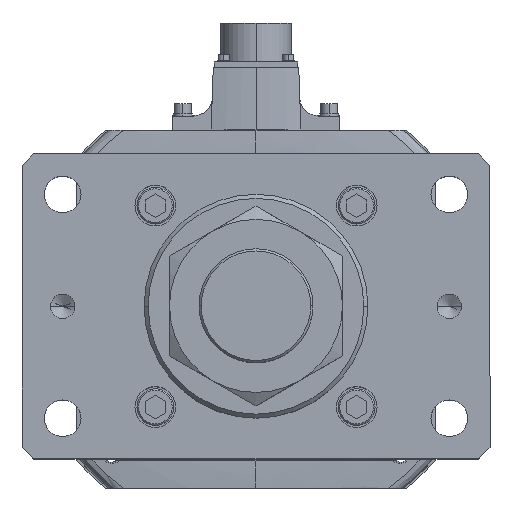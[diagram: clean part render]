
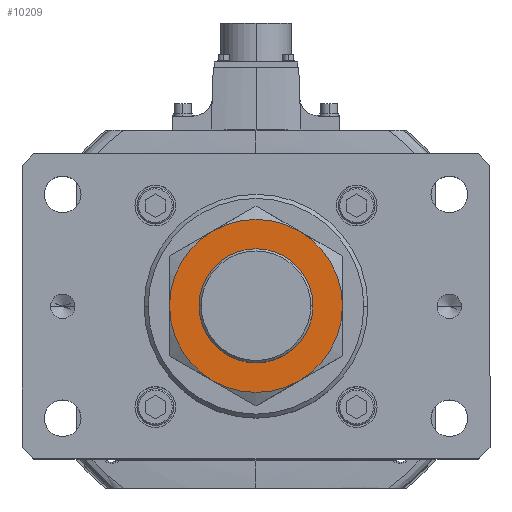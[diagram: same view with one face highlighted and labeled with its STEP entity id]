
A CAD part, top view. The second image highlights one B-rep face of the part: STEP entity #10209.
In plain terms, the highlighted planar face has unit normal (0, 0, 1).
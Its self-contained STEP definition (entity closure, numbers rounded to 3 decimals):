
#606 = FACE_OUTER_BOUND ( 'NONE', #24059, .T. ) ;
#1800 = EDGE_CURVE ( 'NONE', #48882, #20124, #24122, .T. ) ;
#2390 = DIRECTION ( 'NONE',  ( 0., 0., -1. ) ) ;
#2839 = DIRECTION ( 'NONE',  ( 1., 0., 0. ) ) ;
#3513 = DIRECTION ( 'NONE',  ( 0., 0., -1. ) ) ;
#3534 = CARTESIAN_POINT ( 'NONE',  ( -21.25, 36.806, 34. ) ) ;
#5337 = CIRCLE ( 'NONE', #26723, 42.5 ) ;
#5570 = CIRCLE ( 'NONE', #44267, 28. ) ;
#5630 = EDGE_CURVE ( 'NONE', #20573, #53058, #8432, .T. ) ;
#6848 = DIRECTION ( 'NONE',  ( -1., 0., 0. ) ) ;
#6849 = CARTESIAN_POINT ( 'NONE',  ( 21.25, -36.806, 34. ) ) ;
#7797 = CARTESIAN_POINT ( 'NONE',  ( 42.5, 0., 34. ) ) ;
#7798 = DIRECTION ( 'NONE',  ( 1., 0., 0. ) ) ;
#8432 = CIRCLE ( 'NONE', #13391, 28. ) ;
#10209 = ADVANCED_FACE ( 'NONE', ( #606, #19886 ), #35509, .T. ) ;
#11791 = AXIS2_PLACEMENT_3D ( 'NONE', #18730, #40504, #44451 ) ;
#11996 = EDGE_CURVE ( 'NONE', #24866, #19586, #40590, .T. ) ;
#12911 = AXIS2_PLACEMENT_3D ( 'NONE', #46018, #20886, #28870 ) ;
#13391 = AXIS2_PLACEMENT_3D ( 'NONE', #50044, #41647, #15764 ) ;
#14536 = ORIENTED_EDGE ( 'NONE', *, *, #50991, .F. ) ;
#15142 = CARTESIAN_POINT ( 'NONE',  ( 0., 0., 34. ) ) ;
#15764 = DIRECTION ( 'NONE',  ( 1., 0., 0. ) ) ;
#15898 = AXIS2_PLACEMENT_3D ( 'NONE', #15142, #2390, #6848 ) ;
#16539 = DIRECTION ( 'NONE',  ( 1., 0., 0. ) ) ;
#16853 = ORIENTED_EDGE ( 'NONE', *, *, #5630, .F. ) ;
#16915 = CARTESIAN_POINT ( 'NONE',  ( 0., 0., 34. ) ) ;
#18445 = CARTESIAN_POINT ( 'NONE',  ( -42.5, 0., 34. ) ) ;
#18730 = CARTESIAN_POINT ( 'NONE',  ( 0., 0., 34. ) ) ;
#19521 = ORIENTED_EDGE ( 'NONE', *, *, #11996, .F. ) ;
#19586 = VERTEX_POINT ( 'NONE', #6849 ) ;
#19886 = FACE_BOUND ( 'NONE', #50874, .T. ) ;
#20124 = VERTEX_POINT ( 'NONE', #18445 ) ;
#20527 = EDGE_CURVE ( 'NONE', #19586, #48882, #31497, .T. ) ;
#20573 = VERTEX_POINT ( 'NONE', #25486 ) ;
#20886 = DIRECTION ( 'NONE',  ( 0., 0., -1. ) ) ;
#22177 = ORIENTED_EDGE ( 'NONE', *, *, #52395, .F. ) ;
#22516 = AXIS2_PLACEMENT_3D ( 'NONE', #16915, #42645, #16539 ) ;
#24059 = EDGE_LOOP ( 'NONE', ( #19521, #35425, #22177, #14536, #32683, #33962 ) ) ;
#24122 = CIRCLE ( 'NONE', #52916, 42.5 ) ;
#24450 = CARTESIAN_POINT ( 'NONE',  ( 21.25, 36.806, 34. ) ) ;
#24866 = VERTEX_POINT ( 'NONE', #7797 ) ;
#25486 = CARTESIAN_POINT ( 'NONE',  ( -28., 0., 34. ) ) ;
#26385 = VERTEX_POINT ( 'NONE', #24450 ) ;
#26723 = AXIS2_PLACEMENT_3D ( 'NONE', #37498, #3513, #7798 ) ;
#28870 = DIRECTION ( 'NONE',  ( 1., 0., 0. ) ) ;
#28954 = CARTESIAN_POINT ( 'NONE',  ( 0., 0., 34. ) ) ;
#31497 = CIRCLE ( 'NONE', #22516, 42.5 ) ;
#32683 = ORIENTED_EDGE ( 'NONE', *, *, #1800, .F. ) ;
#33962 = ORIENTED_EDGE ( 'NONE', *, *, #20527, .F. ) ;
#35425 = ORIENTED_EDGE ( 'NONE', *, *, #40298, .F. ) ;
#35474 = EDGE_CURVE ( 'NONE', #53058, #20573, #5570, .T. ) ;
#35509 = PLANE ( 'NONE',  #11791 ) ;
#36578 = CARTESIAN_POINT ( 'NONE',  ( 0., 0., 34. ) ) ;
#36664 = CIRCLE ( 'NONE', #15898, 42.5 ) ;
#36823 = DIRECTION ( 'NONE',  ( 0., 0., 1. ) ) ;
#37498 = CARTESIAN_POINT ( 'NONE',  ( 0., 0., 34. ) ) ;
#37596 = VERTEX_POINT ( 'NONE', #3534 ) ;
#40298 = EDGE_CURVE ( 'NONE', #26385, #24866, #50280, .T. ) ;
#40504 = DIRECTION ( 'NONE',  ( 0., 0., 1. ) ) ;
#40590 = CIRCLE ( 'NONE', #12911, 42.5 ) ;
#41215 = AXIS2_PLACEMENT_3D ( 'NONE', #36578, #54115, #53402 ) ;
#41647 = DIRECTION ( 'NONE',  ( 0., 0., 1. ) ) ;
#42645 = DIRECTION ( 'NONE',  ( 0., 0., -1. ) ) ;
#44267 = AXIS2_PLACEMENT_3D ( 'NONE', #53817, #36823, #2839 ) ;
#44451 = DIRECTION ( 'NONE',  ( 1., 0., 0. ) ) ;
#45764 = CARTESIAN_POINT ( 'NONE',  ( -21.25, -36.806, 34. ) ) ;
#46018 = CARTESIAN_POINT ( 'NONE',  ( 0., 0., 34. ) ) ;
#48565 = ORIENTED_EDGE ( 'NONE', *, *, #35474, .F. ) ;
#48882 = VERTEX_POINT ( 'NONE', #45764 ) ;
#49858 = DIRECTION ( 'NONE',  ( 1., 0., 0. ) ) ;
#50044 = CARTESIAN_POINT ( 'NONE',  ( 0., 0., 34. ) ) ;
#50280 = CIRCLE ( 'NONE', #41215, 42.5 ) ;
#50874 = EDGE_LOOP ( 'NONE', ( #16853, #48565 ) ) ;
#50991 = EDGE_CURVE ( 'NONE', #20124, #37596, #36664, .T. ) ;
#52395 = EDGE_CURVE ( 'NONE', #37596, #26385, #5337, .T. ) ;
#52916 = AXIS2_PLACEMENT_3D ( 'NONE', #28954, #54337, #49858 ) ;
#53058 = VERTEX_POINT ( 'NONE', #53609 ) ;
#53402 = DIRECTION ( 'NONE',  ( 1., 0., 0. ) ) ;
#53609 = CARTESIAN_POINT ( 'NONE',  ( 28., 0., 34. ) ) ;
#53817 = CARTESIAN_POINT ( 'NONE',  ( 0., 0., 34. ) ) ;
#54115 = DIRECTION ( 'NONE',  ( 0., 0., -1. ) ) ;
#54337 = DIRECTION ( 'NONE',  ( 0., 0., -1. ) ) ;
